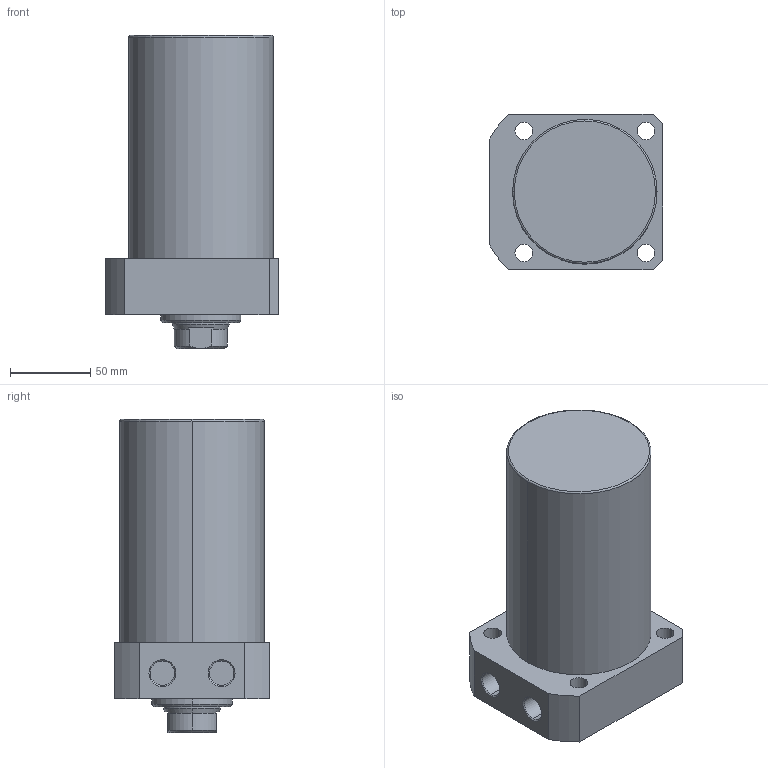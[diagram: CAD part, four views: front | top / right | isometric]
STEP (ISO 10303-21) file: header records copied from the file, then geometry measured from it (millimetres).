
FILE_DESCRIPTION (( 'STEP AP203' ), '1' );
FILE_NAME ('CLLR-090CA-095.STEP', '2019-12-18T06:24:27', ( '' ), ( '' ), 'SwSTEP 2.0', 'SolidWorks 2015', '' );
FILE_SCHEMA (( 'CONFIG_CONTROL_DESIGN' ));
Length unit declared in the file: millimetre
Products named in the file (1): CLLR-090CA-095
Bounding box: 108 x 97 x 195 mm (x, y, z)
Volume: 1233185.2 mm3; surface area: 84388.8 mm2
Topology: 1 solids, 1 shells, 65 faces, 151 edges, 94 vertices
Faces by surface type: cylinder 29, plane 19, cone 15, torus 2
Entity records: 1977 total; most frequent: CARTESIAN_POINT 357, DIRECTION 350, ORIENTED_EDGE 298, EDGE_CURVE 149, AXIS2_PLACEMENT_3D 143, VERTEX_POINT 94, EDGE_LOOP 81, CIRCLE 77
